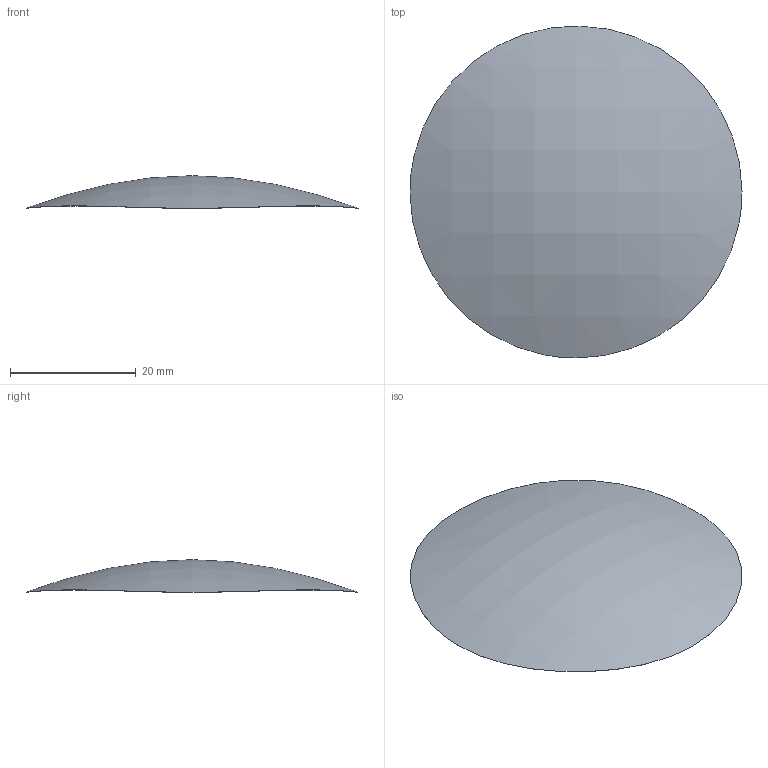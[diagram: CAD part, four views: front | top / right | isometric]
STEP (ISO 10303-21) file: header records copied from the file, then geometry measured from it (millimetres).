
FILE_DESCRIPTION ((), '1');
FILE_NAME ('C:\ZEMAX\Objects\ExtPoly.stp', '2004-07-28T10:59:43', ('Unknown'), ('Unknown'), 'HarmonyWare STEP v1.1.9', 'HarmonyWare Translators', '');
FILE_SCHEMA (('CONFIG_CONTROL_DESIGN'));
Length unit declared in the file: millimetre
Products named in the file (1): product-name
Bounding box: 52.85 x 52.84 x 5.19 mm (x, y, z)
Surface area: 4531.9 mm2
Topology: 1 solids, 1 shells, 5 faces, 9 edges, 6 vertices
Faces by surface type: bspline 5
Entity records: 2669 total; most frequent: CARTESIAN_POINT 2514, ORIENTED_EDGE 18, B_SPLINE_CURVE_WITH_KNOTS 9, EDGE_CURVE 9, PERSON 8, ORGANIZATION 8, PERSON_AND_ORGANIZATION 8, VERTEX_POINT 6
